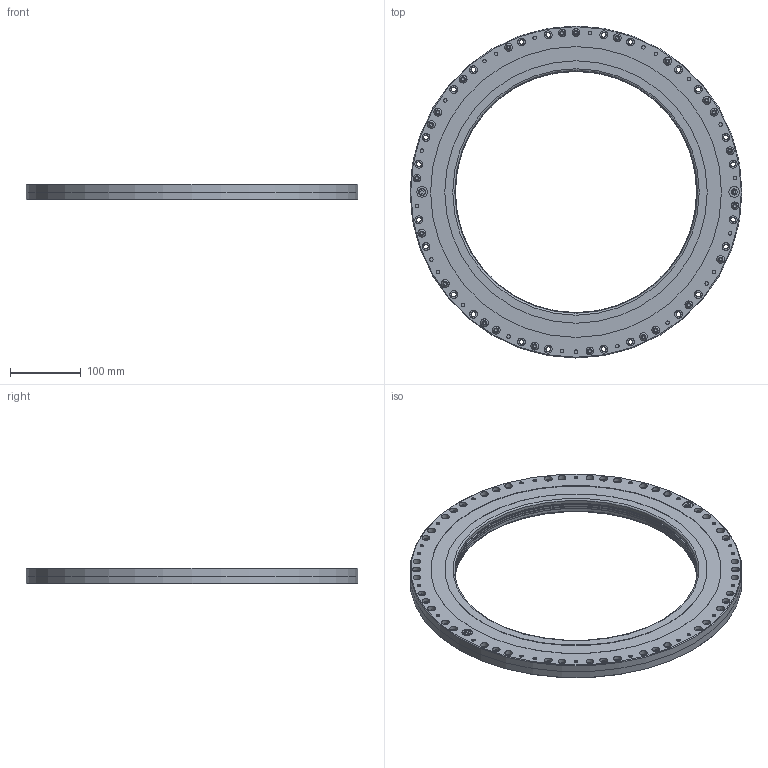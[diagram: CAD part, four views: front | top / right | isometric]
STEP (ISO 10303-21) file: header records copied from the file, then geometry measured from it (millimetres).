
FILE_DESCRIPTION(/* description */ ('Unknown'),/* implementation_level */ '2;1');
FILE_NAME(/* name */ '10037928_RC 340 N + Booster',/* time_stamp */ '2024-11-18T11:16:57+01:00',/* author */ ('Unknown'),/* organization */ ('Unknown'),/* preprocessor_version */ 'ST-DEVELOPER v19.4',/* originating_system */ 'Solid Edge',/* authorisation */ 'Unknown');
FILE_SCHEMA (('AUTOMOTIVE_DESIGN {1 0 10303 214 3 1 1}'));
Length unit declared in the file: millimetre
Products named in the file (7): 10037928; Linsenkopfschraube ISO 7380 TX M6 x 14 Ph 012.9; 34-00-0011-E001; 34-06-0064-E001; 34-06-0051-E001; Verschlussschraube G1;8 x 4,5; Gewindestift DIN 913 - M6x4 VA
Assembly tree (54 placements, depth 2):
  10037928
    Linsenkopfschraube ISO 7380 TX M6 x 14 Ph 012.9  x46
    34-00-0011-E001  x2
    34-06-0064-E001
    34-06-0051-E001
    Verschlussschraube G1;8 x 4,5  x3
    Gewindestift DIN 913 - M6x4 VA
Bounding box: 468 x 468 x 22.4 mm (x, y, z)
Volume: 1664409.5 mm3; surface area: 439846.4 mm2
Topology: 54 solids, 54 shells, 2427 faces, 5806 edges, 3625 vertices
Faces by surface type: cylinder 1495, cone 394, plane 301, torus 191, sphere 46
Full cylindrical faces by diameter (mm): 1.5 x5, 4.917 x47, 5.6 x46, 6 x94, 6.8 x95, 7.4 x1, 8.4 x1, 8.566 x4, 9.728 x4, 10.5 x46, 11 x96, 15 x4, 340 x2, 345 x2, 370 x2, 410 x2, 468 x2
Entity records: 12075 total; most frequent: CARTESIAN_POINT 2717, DIRECTION 1448, ORIENTED_EDGE 1144, FACE_BOUND 708, EDGE_LOOP 706, AXIS2_PLACEMENT_3D 673, EDGE_CURVE 572, VERTEX_POINT 470
